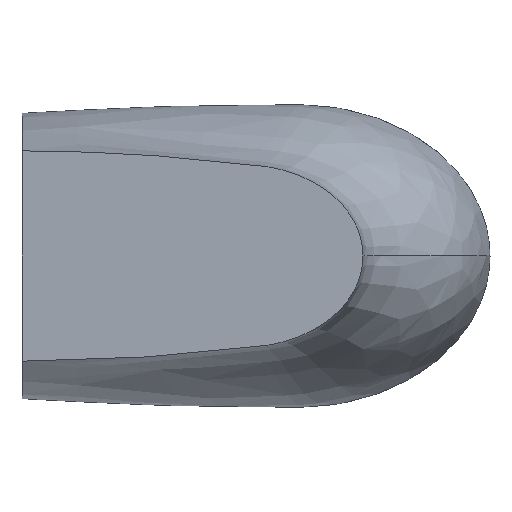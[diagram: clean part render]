
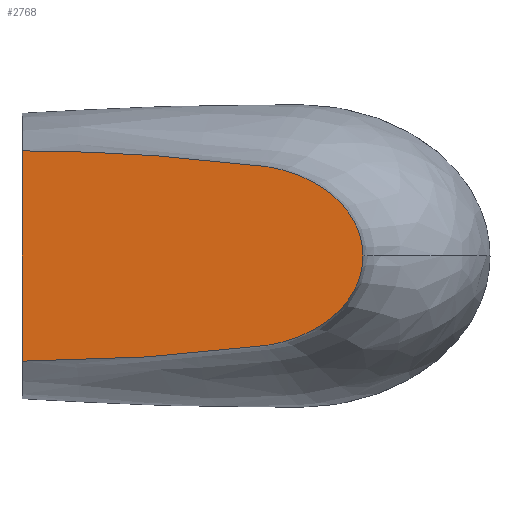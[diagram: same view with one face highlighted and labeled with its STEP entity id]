
A CAD part, front view. The second image highlights one B-rep face of the part: STEP entity #2768.
In plain terms, the highlighted planar face has unit normal (0, -1, 0).
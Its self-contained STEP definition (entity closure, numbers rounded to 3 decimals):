
#179 = ORIENTED_EDGE ( 'NONE', *, *, #3873, .T. ) ;
#207 = VERTEX_POINT ( 'NONE', #624 ) ;
#222 =( BOUNDED_CURVE ( )  B_SPLINE_CURVE ( 3, ( #841, #5607, #3938, #3769 ),
 .UNSPECIFIED., .F., .T. ) 
 B_SPLINE_CURVE_WITH_KNOTS ( ( 4, 4 ),
 ( 0., 1.409 ),
 .UNSPECIFIED. ) 
 CURVE ( )  GEOMETRIC_REPRESENTATION_ITEM ( )  RATIONAL_B_SPLINE_CURVE ( ( 1., 0.841, 0.841, 1. ) ) 
 REPRESENTATION_ITEM ( '' )  );
#331 = CARTESIAN_POINT ( 'NONE',  ( 279.776, -305., -102.623 ) ) ;
#385 = VERTEX_POINT ( 'NONE', #1602 ) ;
#388 = CARTESIAN_POINT ( 'NONE',  ( 6., -305., 0. ) ) ;
#392 = VERTEX_POINT ( 'NONE', #2987 ) ;
#400 = CARTESIAN_POINT ( 'NONE',  ( 52.086, -305., 119.518 ) ) ;
#441 = CARTESIAN_POINT ( 'NONE',  ( 281.781, -305., 102.371 ) ) ;
#455 = CARTESIAN_POINT ( 'NONE',  ( 236.039, -305., 108.117 ) ) ;
#467 = CARTESIAN_POINT ( 'NONE',  ( 350.144, -305., 93.784 ) ) ;
#492 = EDGE_CURVE ( 'NONE', #392, #385, #5890, .T. ) ;
#572 = CARTESIAN_POINT ( 'NONE',  ( 260., -305., 0. ) ) ;
#624 = CARTESIAN_POINT ( 'NONE',  ( 281.781, -305., -102.371 ) ) ;
#779 = VERTEX_POINT ( 'NONE', #1273 ) ;
#841 = CARTESIAN_POINT ( 'NONE',  ( 395., -305., 0. ) ) ;
#880 = CARTESIAN_POINT ( 'NONE',  ( 196.116, -305., -111.79 ) ) ;
#1012 = ORIENTED_EDGE ( 'NONE', *, *, #1146, .F. ) ;
#1146 = EDGE_CURVE ( 'NONE', #207, #392, #3476, .T. ) ;
#1257 =( BOUNDED_CURVE ( )  B_SPLINE_CURVE ( 3, ( #2723, #4564, #467, #441 ),
 .UNSPECIFIED., .F., .F. ) 
 B_SPLINE_CURVE_WITH_KNOTS ( ( 4, 4 ),
 ( 0., 1.409 ),
 .UNSPECIFIED. ) 
 CURVE ( )  GEOMETRIC_REPRESENTATION_ITEM ( )  RATIONAL_B_SPLINE_CURVE ( ( 1., 0.841, 0.841, 1. ) ) 
 REPRESENTATION_ITEM ( '' )  );
#1259 = CARTESIAN_POINT ( 'NONE',  ( 238.87, -305., -107.446 ) ) ;
#1273 = CARTESIAN_POINT ( 'NONE',  ( 281.781, -305., 102.371 ) ) ;
#1315 = DIRECTION ( 'NONE',  ( 0., 0., 1. ) ) ;
#1322 = CARTESIAN_POINT ( 'NONE',  ( 271.165, -305., -103.681 ) ) ;
#1352 = CARTESIAN_POINT ( 'NONE',  ( 6., -305., 119.992 ) ) ;
#1464 = DIRECTION ( 'NONE',  ( 0., 0., 1. ) ) ;
#1512 = EDGE_CURVE ( 'NONE', #779, #385, #5062, .T. ) ;
#1602 = CARTESIAN_POINT ( 'NONE',  ( 6., -305., 119.992 ) ) ;
#1642 = CARTESIAN_POINT ( 'NONE',  ( 6., -305., -119.992 ) ) ;
#1805 = CARTESIAN_POINT ( 'NONE',  ( 121.157, -305., 116.869 ) ) ;
#1918 = AXIS2_PLACEMENT_3D ( 'NONE', #572, #1942, #1464 ) ;
#1942 = DIRECTION ( 'NONE',  ( 0., 1., 0. ) ) ;
#2052 = VECTOR ( 'NONE', #1315, 1000. ) ;
#2154 = CARTESIAN_POINT ( 'NONE',  ( 262.257, -305., -104.739 ) ) ;
#2225 = CARTESIAN_POINT ( 'NONE',  ( 29.049, -305., 119.931 ) ) ;
#2643 = ORIENTED_EDGE ( 'NONE', *, *, #1512, .T. ) ;
#2723 = CARTESIAN_POINT ( 'NONE',  ( 395., -305., 0. ) ) ;
#2768 = ADVANCED_FACE ( 'NONE', ( #5652 ), #5621, .F. ) ;
#2778 = CARTESIAN_POINT ( 'NONE',  ( 395., -305., 0. ) ) ;
#2987 = CARTESIAN_POINT ( 'NONE',  ( 6., -305., -119.992 ) ) ;
#3476 = B_SPLINE_CURVE_WITH_KNOTS ( 'NONE', 3,
 ( #4092, #331, #4487, #1322, #5349, #2154, #1259, #880, #4551, #4453, #4868, #1642 ),
 .UNSPECIFIED., .F., .F.,
 ( 4, 1, 1, 1, 2, 1, 1, 1, 4 ),
 ( 0., 0.024, 0.048, 0.072, 0.097, 0.322, 0.548, 0.774, 0.979 ),
 .UNSPECIFIED. ) ;
#3608 = CARTESIAN_POINT ( 'NONE',  ( 190.165, -305., 112.46 ) ) ;
#3637 = CARTESIAN_POINT ( 'NONE',  ( 98.14, -305., 117.987 ) ) ;
#3769 = CARTESIAN_POINT ( 'NONE',  ( 281.781, -305., -102.371 ) ) ;
#3873 = EDGE_CURVE ( 'NONE', #5129, #779, #1257, .T. ) ;
#3938 = CARTESIAN_POINT ( 'NONE',  ( 350.144, -305., -93.784 ) ) ;
#4092 = CARTESIAN_POINT ( 'NONE',  ( 281.781, -305., -102.371 ) ) ;
#4095 = CARTESIAN_POINT ( 'NONE',  ( 281.781, -305., 102.371 ) ) ;
#4453 = CARTESIAN_POINT ( 'NONE',  ( 67.385, -305., -119.285 ) ) ;
#4487 = CARTESIAN_POINT ( 'NONE',  ( 276.191, -305., -103.068 ) ) ;
#4551 = CARTESIAN_POINT ( 'NONE',  ( 130.975, -305., -116.521 ) ) ;
#4564 = CARTESIAN_POINT ( 'NONE',  ( 395., -305., 53.225 ) ) ;
#4741 = EDGE_LOOP ( 'NONE', ( #5854, #179, #2643, #5861, #1012 ) ) ;
#4868 = CARTESIAN_POINT ( 'NONE',  ( 25.734, -305., -119.94 ) ) ;
#5062 = B_SPLINE_CURVE_WITH_KNOTS ( 'NONE', 3,
 ( #4095, #455, #3608, #1805, #3637, #400, #2225, #1352 ),
 .UNSPECIFIED., .F., .F.,
 ( 4, 2, 2, 4 ),
 ( 0., 0.489, 0.734, 0.979 ),
 .UNSPECIFIED. ) ;
#5129 = VERTEX_POINT ( 'NONE', #2778 ) ;
#5349 = CARTESIAN_POINT ( 'NONE',  ( 266.037, -305., -104.295 ) ) ;
#5607 = CARTESIAN_POINT ( 'NONE',  ( 395., -305., -53.225 ) ) ;
#5621 = PLANE ( 'NONE',  #1918 ) ;
#5652 = FACE_OUTER_BOUND ( 'NONE', #4741, .T. ) ;
#5815 = EDGE_CURVE ( 'NONE', #5129, #207, #222, .T. ) ;
#5854 = ORIENTED_EDGE ( 'NONE', *, *, #5815, .F. ) ;
#5861 = ORIENTED_EDGE ( 'NONE', *, *, #492, .F. ) ;
#5890 = LINE ( 'NONE', #388, #2052 ) ;
